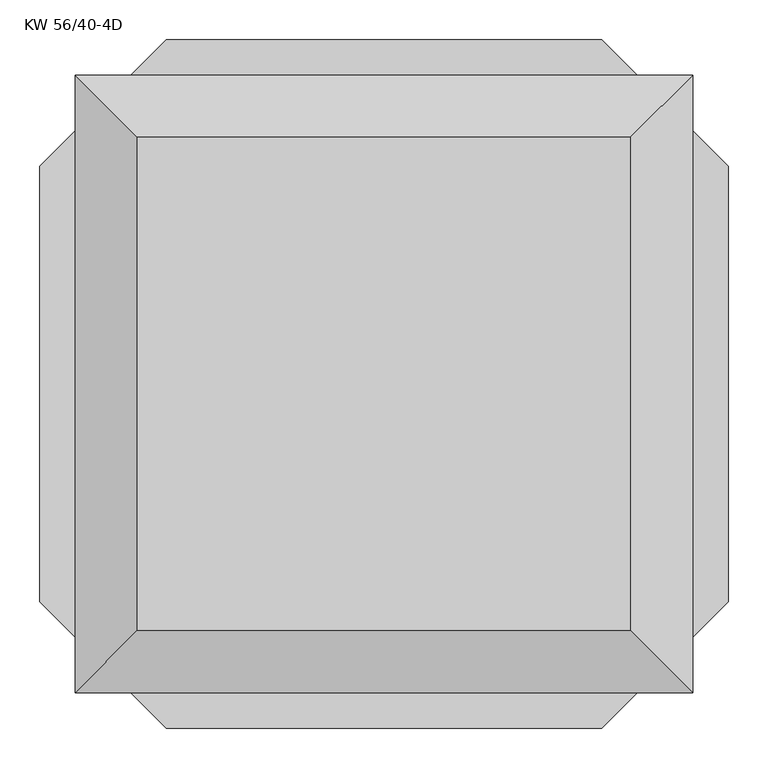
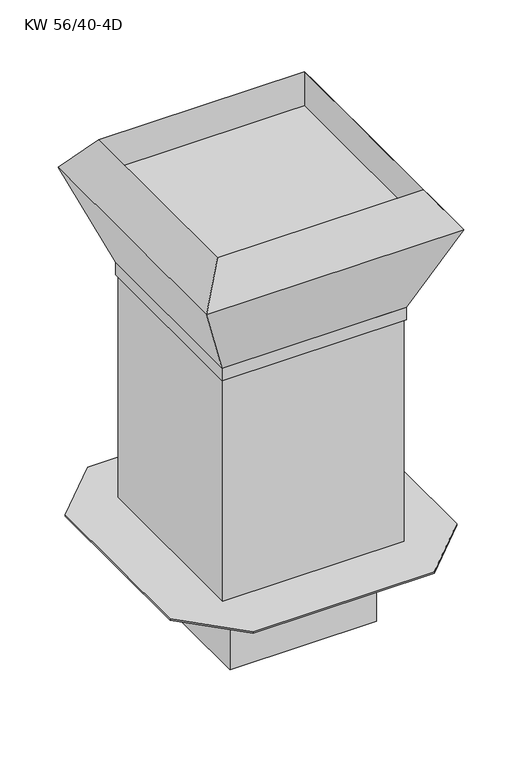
"""IFC4 building model written with IfcOpenShell, lengths in millimetres: proxy geometry, KORF_Вентилятор_Вытяжной_Крышный_KW : KW 56/40-4D."""

from ifc_helpers import new_model, si_unit, frame, origin, place, context, project, spatial, polyline, outline, extrude, faceted_brep, source, transform, mapped, element, save


def kw_56_40_4d_3924a8c1(model_context):
    return source(origin(), model_context, "Body", "SolidModel", [
        faceted_brep([(222.5, 245.0, -1.0), (222.5, 222.5, -1.0), (-222.5, 222.5, -1.0), (-222.5, 245.0, -1.0), (222.5, -222.5, -1.0), (222.5, -245.0, -1.0), (-222.5, -245.0, -1.0), (-222.5, -222.5, -1.0), (-222.5, 245.0, 0.0), (222.5, 245.0, 0.0), (-222.5, 222.5, 0.0), (222.5, 222.5, 0.0), (-222.5, -245.0, 0.0), (-222.5, -222.5, 0.0), (222.5, -245.0, 0.0), (222.5, -222.5, 0.0), (-246.5, 222.5, 0.0), (-246.5, -222.5, 0.0), (245.0, -222.5, 0.0), (245.0, 222.5, 0.0), (221.0, 221.0, 0.0), (221.0, -221.0, 0.0), (-221.0, -221.0, 0.0), (-221.0, 221.0, 0.0), (-246.5, 222.5, -1.0), (-246.5, -222.5, -1.0), (245.0, -222.5, -1.0), (245.0, 222.5, -1.0), (222.5, -222.5, -264.0), (-222.5, -222.5, -264.0), (-222.5, 222.5, -264.0), (222.5, 222.5, -264.0), (221.0, 221.0, -264.0), (-221.0, 221.0, -264.0), (-221.0, -221.0, -264.0), (221.0, -221.0, -264.0)], [[[0, 1, 2, 3]], [[4, 5, 6, 7]], [[0, 3, 8, 9]], [[3, 2, 10, 8]], [[1, 0, 9, 11]], [[7, 6, 12, 13]], [[6, 5, 14, 12]], [[5, 4, 15, 14]], [[16, 17, 13, 12, 14, 15, 18, 19, 11, 9, 8, 10], [20, 21, 22, 23]], [[24, 2, 7, 25]], [[26, 4, 1, 27]], [[17, 16, 24, 25]], [[13, 17, 25, 7]], [[16, 10, 2, 24]], [[19, 18, 26, 27]], [[11, 19, 27, 1]], [[18, 15, 4, 26]], [[28, 29, 30, 31], [32, 33, 34, 35]], [[28, 31, 1, 4]], [[31, 30, 2, 1]], [[30, 29, 7, 2]], [[29, 28, 4, 7]], [[21, 20, 32, 35]], [[22, 21, 35, 34]], [[23, 22, 34, 33]], [[20, 23, 33, 32]]]),
        faceted_brep([(275.0, 275.0, 757.0), (-275.0, 275.0, 757.0), (-275.0, -275.0, 757.0), (275.0, -275.0, 757.0), (275.0, 435.0, 0.0), (435.0, 275.0, 0.0), (435.0, -275.0, 0.0), (275.0, -435.0, 0.0), (-275.0, -435.0, 0.0), (-435.0, -275.0, 0.0), (-435.0, 275.0, 0.0), (-275.0, 435.0, 0.0), (275.0, 275.0, 5.0), (-275.0, 275.0, 5.0), (-275.0, -275.0, 5.0), (275.0, -275.0, 5.0), (275.0, 435.0, 5.0), (-275.0, 435.0, 5.0), (-435.0, 275.0, 5.0), (-435.0, -275.0, 5.0), (-275.0, -435.0, 5.0), (275.0, -435.0, 5.0), (435.0, -275.0, 5.0), (435.0, 275.0, 5.0)], [[[0, 1, 2, 3]], [[4, 5, 6, 7, 8, 9, 10, 11]], [[1, 0, 12, 13]], [[2, 1, 13, 14]], [[3, 2, 14, 15]], [[0, 3, 15, 12]], [[16, 17, 18, 19, 20, 21, 22, 23], [13, 12, 15, 14]], [[17, 16, 4, 11]], [[18, 17, 11, 10]], [[19, 18, 10, 9]], [[20, 19, 9, 8]], [[21, 20, 8, 7]], [[22, 21, 7, 6]], [[23, 22, 6, 5]], [[16, 23, 5, 4]]]),
        faceted_brep([(390.0, 390.0, 1033.25), (390.0, -390.0, 1033.25), (-390.0, -390.0, 1033.25), (-390.0, 390.0, 1033.25), (312.0, 312.0, 1033.25), (-312.0, 312.0, 1033.25), (-312.0, -312.0, 1033.25), (312.0, -312.0, 1033.25), (-312.0, 312.0, 1142.0), (312.0, 312.0, 1142.0), (-312.0, -312.0, 1142.0), (312.0, -312.0, 1142.0)], [[[0, 1, 2, 3], [4, 5, 6, 7]], [[0, 3, 8, 9]], [[3, 2, 10, 8]], [[2, 1, 11, 10]], [[1, 0, 9, 11]], [[8, 5, 4, 9]], [[5, 8, 10, 6]], [[6, 10, 11, 7]], [[9, 4, 7, 11]]]),
        faceted_brep([(390.0, 390.0, 1033.25), (-390.0, 390.0, 1033.25), (-390.0, -390.0, 1033.25), (390.0, -390.0, 1033.25), (280.0, 280.0, 757.0), (280.0, -280.0, 757.0), (-280.0, -280.0, 757.0), (-280.0, 280.0, 757.0)], [[[0, 1, 2, 3]], [[4, 5, 6, 7]], [[4, 7, 1, 0]], [[7, 6, 2, 1]], [[6, 5, 3, 2]], [[5, 4, 0, 3]]]),
        extrude(outline(polyline([(280.0, 280.0), (280.0, -280.0), (-280.0, -280.0), (-280.0, 280.0), (280.0, 280.0)]), holes=[polyline([(278.0, 278.0), (-278.0, 278.0), (-278.0, -278.0), (278.0, -278.0), (278.0, 278.0)])]), frame((0.0, 0.0, 717.0), z_axis=(0.0, 0.0, 1.0), x_axis=(1.0, 0.0, 0.0)), (0.0, 0.0, 1.0), 40.0),
    ])


if __name__ == "__main__":
    model = new_model("IFC4")
    model_context = context("Model", 3, world=origin())
    ifc_project = project(units=[si_unit("LENGTHUNIT", "METRE", prefix="MILLI")], contexts=[model_context])
    site = spatial("IfcSite", under=ifc_project)
    building = spatial("IfcBuilding", under=site)
    placement = place(None, origin())
    kw_56_40_4d_shape = kw_56_40_4d_3924a8c1(model_context)
    element("IfcBuildingElementProxy", 1, Name="KORF_Вентилятор_Вытяжной_Крышный_KW : KW 56/40-4D", ObjectType="KORF_Вентилятор_Вытяжной_Крышный_KW : KW 56/40-4D", at=placement, inside=building, context=model_context, shape_type="MappedRepresentation", body=[
        mapped(kw_56_40_4d_shape, transform((0.0, 0.0, 0.0), x_axis=(1.0, 0.0, 0.0), y_axis=(0.0, 1.0, 0.0), z_axis=(0.0, 0.0, 1.0))),
    ])
    save(model, "model.ifc")
